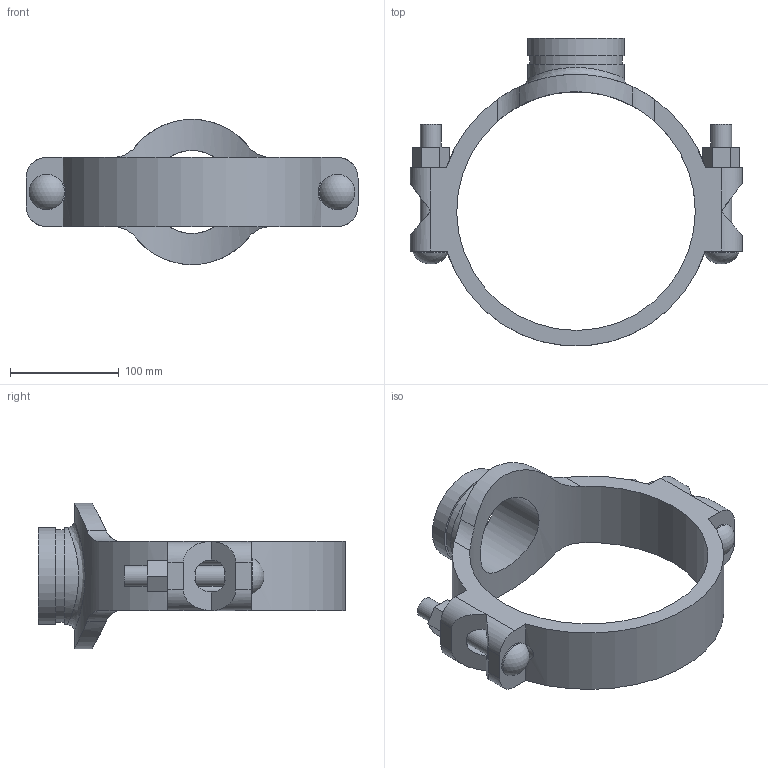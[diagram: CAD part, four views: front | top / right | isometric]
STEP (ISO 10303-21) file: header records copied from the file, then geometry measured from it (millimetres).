
FILE_DESCRIPTION(/* description */ ('VIC SS MECHANICAL T BRANCH OUTLET STYLE 422 (OGS)','CAx-IF Rec.Pracs.---Representation and Presentation of Product Manufacturing Information (PMI)---4.0---2014-10-13'),/* implementation_level */ '2;1');
FILE_NAME(/* name */ 'C:\Files for Export\422\STEP\Victaulic_SS-OGS_Mech-Tee Out_Style 422 (OGS)\Victaulic_SS-OGS_Mech-Tee Out_Style 422 (OGS)_08.0x03.0 (200x80).stp',/* time_stamp */ '2023-03-28T14:00:07+02:00',/* author */ ('jheald'),/* organization */ ('Victaulic'),/* preprocessor_version */ 'ST-DEVELOPER v18.1',/* originating_system */ 'Autodesk Inventor 2020',/* authorisation */ '');
FILE_SCHEMA (('AP242_MANAGED_MODEL_BASED_3D_ENGINEERING_MIM_LF { 1 0 10303 442 1 1 4 }'));
Length unit declared in the file: inch
Products named in the file (1): 422-08.0x03.0
Bounding box: 304.8 x 282.26 x 133.35 mm (x, y, z)
Volume: 1030086.3 mm3; surface area: 185059.1 mm2
Topology: 1 solids, 1 shells, 81 faces, 231 edges, 155 vertices
Faces by surface type: plane 43, cylinder 35, sphere 2, bspline 1
Full cylindrical faces by diameter (mm): 19.05 x4, 32.537 x2, 76.2 x1, 84.938 x1, 88.9 x2, 219.075 x1
Entity records: 3371 total; most frequent: CARTESIAN_POINT 983, DIRECTION 481, ORIENTED_EDGE 462, EDGE_CURVE 231, AXIS2_PLACEMENT_3D 177, VERTEX_POINT 155, LINE 127, VECTOR 127
